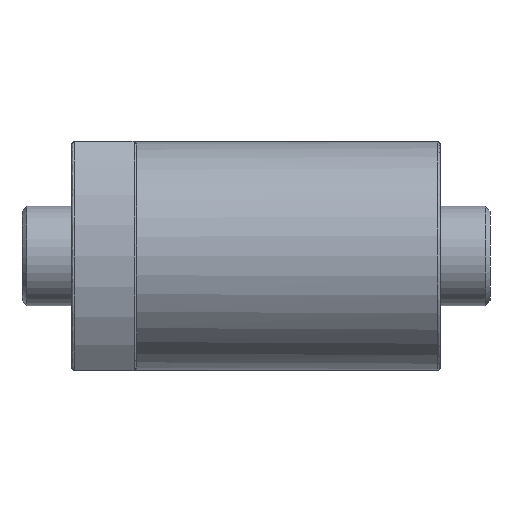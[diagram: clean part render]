
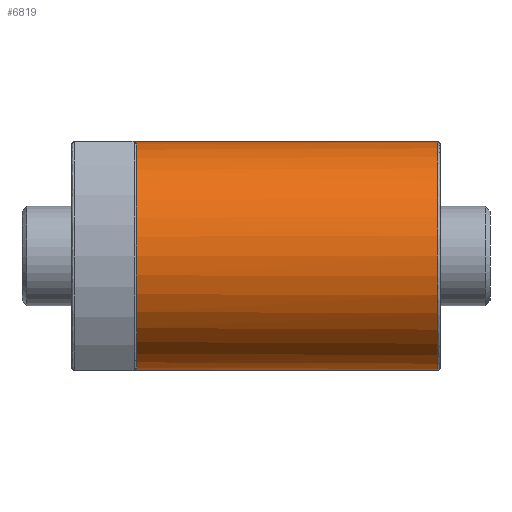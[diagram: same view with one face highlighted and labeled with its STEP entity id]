
A CAD part, front view. The second image highlights one B-rep face of the part: STEP entity #6819.
In plain terms, the highlighted cylindrical face has radius 23 mm (diameter 46 mm), a partial arc.
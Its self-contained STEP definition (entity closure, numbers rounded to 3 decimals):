
#203 = VECTOR ( 'NONE', #5572, 1000. ) ;
#232 = CIRCLE ( 'NONE', #2719, 23. ) ;
#239 = CARTESIAN_POINT ( 'NONE',  ( 13., -4.77, -22.5 ) ) ;
#437 = CARTESIAN_POINT ( 'NONE',  ( 12.5, -1.604, -23. ) ) ;
#511 = VERTEX_POINT ( 'NONE', #810 ) ;
#589 = AXIS2_PLACEMENT_3D ( 'NONE', #6734, #5353, #1573 ) ;
#669 = VERTEX_POINT ( 'NONE', #7973 ) ;
#810 = CARTESIAN_POINT ( 'NONE',  ( 12.5, 0., 23. ) ) ;
#1016 = CARTESIAN_POINT ( 'NONE',  ( 73.5, 0., 23. ) ) ;
#1168 =( BOUNDED_CURVE ( )  B_SPLINE_CURVE ( 3, ( #239, #6157, #437, #2362 ),
 .UNSPECIFIED., .F., .F. ) 
 B_SPLINE_CURVE_WITH_KNOTS ( ( 4, 4 ),
 ( 6.074, 6.283 ),
 .UNSPECIFIED. ) 
 CURVE ( )  GEOMETRIC_REPRESENTATION_ITEM ( )  RATIONAL_B_SPLINE_CURVE ( ( 1., 0.996, 0.996, 1. ) ) 
 REPRESENTATION_ITEM ( '' )  );
#1282 = CARTESIAN_POINT ( 'NONE',  ( 13., -4.77, 22.5 ) ) ;
#1313 = CARTESIAN_POINT ( 'NONE',  ( 12.667, -3.2, 22.833 ) ) ;
#1437 = VERTEX_POINT ( 'NONE', #7414 ) ;
#1480 = CARTESIAN_POINT ( 'NONE',  ( 13., -4.77, 22.5 ) ) ;
#1573 = DIRECTION ( 'NONE',  ( 0., 0., 1. ) ) ;
#1814 = DIRECTION ( 'NONE',  ( -1., 0., 0. ) ) ;
#1879 = VERTEX_POINT ( 'NONE', #6706 ) ;
#2362 = CARTESIAN_POINT ( 'NONE',  ( 12.5, 0., -23. ) ) ;
#2420 = EDGE_CURVE ( 'NONE', #1437, #669, #1168, .T. ) ;
#2615 = LINE ( 'NONE', #7525, #203 ) ;
#2642 = ORIENTED_EDGE ( 'NONE', *, *, #6243, .T. ) ;
#2719 = AXIS2_PLACEMENT_3D ( 'NONE', #4688, #5237, #4611 ) ;
#2755 = EDGE_CURVE ( 'NONE', #6306, #1437, #7575, .T. ) ;
#2913 = ORIENTED_EDGE ( 'NONE', *, *, #2420, .T. ) ;
#3175 = CARTESIAN_POINT ( 'NONE',  ( 12.5, -1.604, 23. ) ) ;
#4025 = VECTOR ( 'NONE', #1814, 1000. ) ;
#4129 = CARTESIAN_POINT ( 'NONE',  ( 74., 0., 0. ) ) ;
#4453 = CARTESIAN_POINT ( 'NONE',  ( 12.5, 0., 23. ) ) ;
#4524 = CYLINDRICAL_SURFACE ( 'NONE', #7764, 23. ) ;
#4611 = DIRECTION ( 'NONE',  ( 0., 0., 1. ) ) ;
#4626 = FACE_OUTER_BOUND ( 'NONE', #6001, .T. ) ;
#4652 = EDGE_CURVE ( 'NONE', #1879, #669, #8133, .T. ) ;
#4688 = CARTESIAN_POINT ( 'NONE',  ( 73.5, 0., 0. ) ) ;
#4784 = ORIENTED_EDGE ( 'NONE', *, *, #7177, .T. ) ;
#4939 = ORIENTED_EDGE ( 'NONE', *, *, #6120, .T. ) ;
#5237 = DIRECTION ( 'NONE',  ( -1., 0., 0. ) ) ;
#5353 = DIRECTION ( 'NONE',  ( 1., 0., 0. ) ) ;
#5369 = VERTEX_POINT ( 'NONE', #1016 ) ;
#5406 = ORIENTED_EDGE ( 'NONE', *, *, #2755, .T. ) ;
#5572 = DIRECTION ( 'NONE',  ( -1., 0., 0. ) ) ;
#6001 = EDGE_LOOP ( 'NONE', ( #6908, #2642, #4784, #4939, #5406, #2913 ) ) ;
#6088 = DIRECTION ( 'NONE',  ( -1., 0., 0. ) ) ;
#6120 = EDGE_CURVE ( 'NONE', #511, #6306, #6397, .T. ) ;
#6157 = CARTESIAN_POINT ( 'NONE',  ( 12.667, -3.2, -22.833 ) ) ;
#6243 = EDGE_CURVE ( 'NONE', #1879, #5369, #232, .T. ) ;
#6306 = VERTEX_POINT ( 'NONE', #1480 ) ;
#6397 =( BOUNDED_CURVE ( )  B_SPLINE_CURVE ( 3, ( #4453, #3175, #1313, #1282 ),
 .UNSPECIFIED., .F., .T. ) 
 B_SPLINE_CURVE_WITH_KNOTS ( ( 4, 4 ),
 ( 0., 0.209 ),
 .UNSPECIFIED. ) 
 CURVE ( )  GEOMETRIC_REPRESENTATION_ITEM ( )  RATIONAL_B_SPLINE_CURVE ( ( 1., 0.996, 0.996, 1. ) ) 
 REPRESENTATION_ITEM ( '' )  );
#6706 = CARTESIAN_POINT ( 'NONE',  ( 73.5, 0., -23. ) ) ;
#6734 = CARTESIAN_POINT ( 'NONE',  ( 13., 0., 0. ) ) ;
#6819 = ADVANCED_FACE ( 'NONE', ( #4626 ), #4524, .T. ) ;
#6908 = ORIENTED_EDGE ( 'NONE', *, *, #4652, .F. ) ;
#7177 = EDGE_CURVE ( 'NONE', #5369, #511, #2615, .T. ) ;
#7325 = DIRECTION ( 'NONE',  ( 0., 0., 1. ) ) ;
#7414 = CARTESIAN_POINT ( 'NONE',  ( 13., -4.77, -22.5 ) ) ;
#7525 = CARTESIAN_POINT ( 'NONE',  ( 74., 0., 23. ) ) ;
#7533 = CARTESIAN_POINT ( 'NONE',  ( 74., 0., -23. ) ) ;
#7575 = CIRCLE ( 'NONE', #589, 23. ) ;
#7764 = AXIS2_PLACEMENT_3D ( 'NONE', #4129, #6088, #7325 ) ;
#7973 = CARTESIAN_POINT ( 'NONE',  ( 12.5, 0., -23. ) ) ;
#8133 = LINE ( 'NONE', #7533, #4025 ) ;
